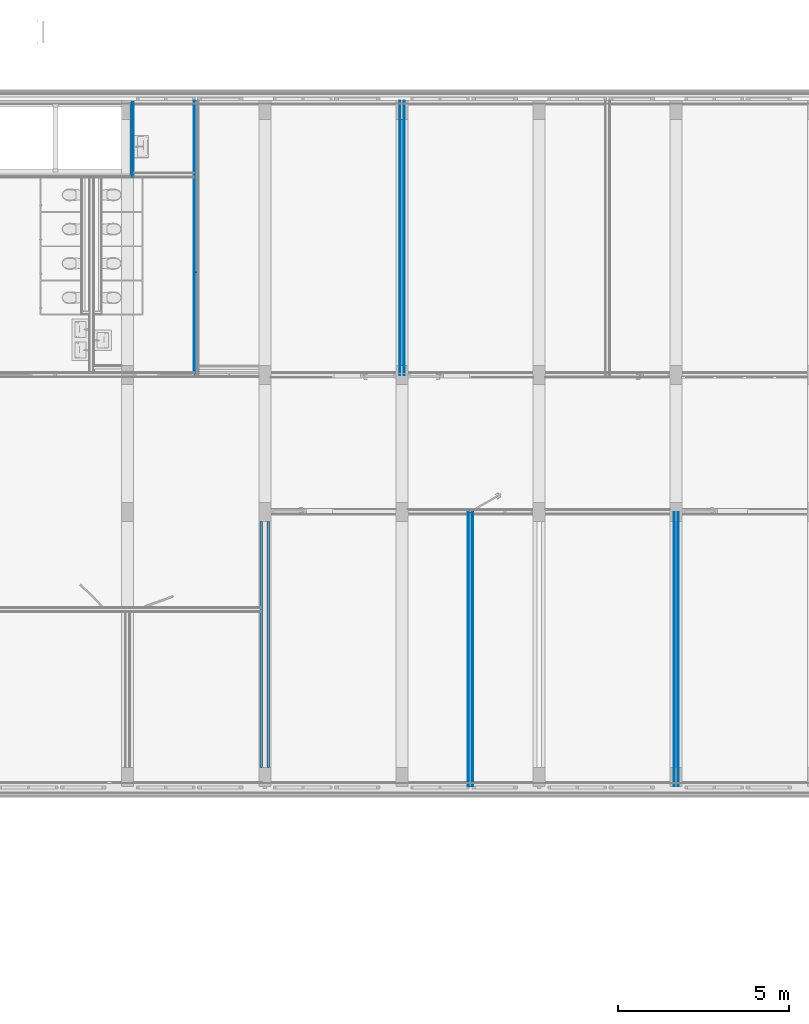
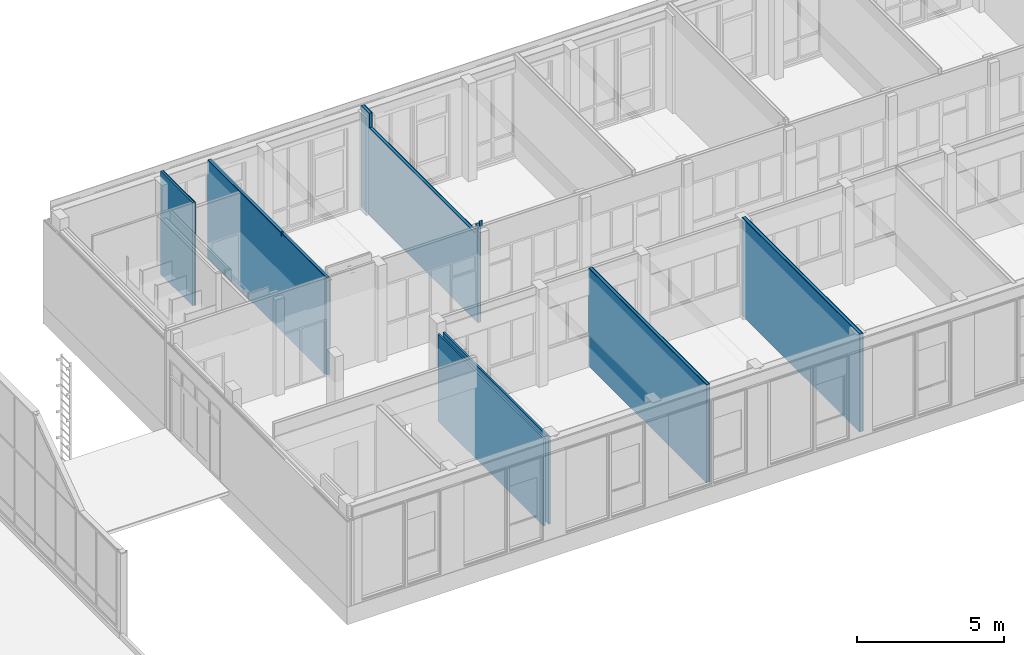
# One storey, part 24 of 54: 23 building element parts, 6 elements without a shape of their own.
"""IFC2X3 building model written with IfcOpenShell, lengths in millimetres."""

import ifcopenshell
import ifcopenshell.guid

model = None  # the IFC model being written
_history = None  # IfcOwnerHistory: only IFC2X3 demands one
_inside = {}  # id of a spatial element -> (the spatial element, [elements in it])
_under = {}  # id of a project, library or spatial element -> (it, [spatial elements below it])
_declared = {}  # id of a project -> (the project, [libraries it declares])
_typed = {}  # id of a type object -> (the type object, [elements of that type])
_made_of = {}  # id of a material, layer set ... -> (it, [elements and type objects made of it])


def new_model(schema):
    """Start an empty IFC model of exactly this schema.

    Asked for "IFC4X3", IfcOpenShell would pick the latest addendum, in which some entities
    have other attributes; the version numbers below select the first issue.
    IFC2X3 requires an IfcOwnerHistory on every rooted entity: one is made here for all.
    """
    global model, _history
    if schema == "IFC4X3":
        model = ifcopenshell.file(schema_version=(4, 3, 0, 0))
    else:
        model = ifcopenshell.file(schema=schema)
    _inside.clear()
    _under.clear()
    _declared.clear()
    _typed.clear()
    _made_of.clear()
    _history = None
    if model.schema == "IFC2X3":
        org = make("IfcOrganization", Name="unknown")
        user = make(
            "IfcPersonAndOrganization",
            ThePerson=make("IfcPerson", FamilyName="unknown"),
            TheOrganization=org,
        )
        app = make(
            "IfcApplication",
            ApplicationDeveloper=org,
            Version="unknown",
            ApplicationFullName="unknown",
            ApplicationIdentifier="unknown",
        )
        _history = make(
            "IfcOwnerHistory",
            OwningUser=user,
            OwningApplication=app,
            ChangeAction="ADDED",
            CreationDate=0,
        )
    return model


def make(cls, **values):
    """One entity of the class cls with the attributes given. An attribute that is None is left unset."""
    return model.create_entity(
        cls, **{name: value for name, value in values.items() if value is not None}
    )


def entity(cls, *values):
    """Any entity or typed value of the class cls, its attributes in the order of the schema. None: left unset."""
    e = model.create_entity(cls)
    for i, value in enumerate(values):
        if value is not None:
            e[i] = value
    return e


def rooted(cls, **values):
    """An entity with a GlobalId (a new one), such as an element, a storey or a relation."""
    return make(cls, GlobalId=ifcopenshell.guid.new(), OwnerHistory=_history, **values)


def si_unit(unit_type, name, prefix=None):
    """IfcSIUnit, for example si_unit("LENGTHUNIT", "METRE", prefix="MILLI")."""
    return make("IfcSIUnit", UnitType=unit_type, Prefix=prefix, Name=name)


def converted_unit(unit_type, name, factor, base, dimensions=None, offset=None):
    """IfcConversionBasedUnit, such as the inch: factor (a typed value) times the base unit."""
    return make(
        "IfcConversionBasedUnit"
        if offset is None
        else "IfcConversionBasedUnitWithOffset",
        ConversionOffset=offset,
        Dimensions=None
        if dimensions is None
        else entity("IfcDimensionalExponents", *dimensions),
        UnitType=unit_type,
        Name=name,
        ConversionFactor=make(
            "IfcMeasureWithUnit", ValueComponent=factor, UnitComponent=base
        ),
    )


def derived_unit(unit_type, elements):
    """IfcDerivedUnit: a product of units, each with its exponent."""
    return make(
        "IfcDerivedUnit",
        Elements=[
            make("IfcDerivedUnitElement", Unit=unit, Exponent=power)
            for unit, power in elements
        ],
        UnitType=unit_type,
    )


def money_unit(currency):
    """IfcMonetaryUnit."""
    return make("IfcMonetaryUnit", Currency=currency)


def assignment(units):
    """IfcUnitAssignment: the units of a project."""
    return None if units is None else make("IfcUnitAssignment", Units=units)


def point(xyz):
    """IfcCartesianPoint."""
    return None if xyz is None else make("IfcCartesianPoint", Coordinates=xyz)


def direction(xyz):
    """IfcDirection."""
    return None if xyz is None else make("IfcDirection", DirectionRatios=xyz)


def frame(location, z_axis=None, x_axis=None):
    """IfcAxis2Placement3D, a coordinate frame: its origin and axes. An axis left out is left unset."""
    return make(
        "IfcAxis2Placement3D",
        Location=point(location),
        Axis=direction(z_axis),
        RefDirection=direction(x_axis),
    )


def origin_with_axes():
    """The frame at (0, 0, 0) with the z axis (0, 0, 1) and the x axis (1, 0, 0) written out."""
    return frame((0.0, 0.0, 0.0), z_axis=(0.0, 0.0, 1.0), x_axis=(1.0, 0.0, 0.0))


def place(relative_to, where):
    """IfcLocalPlacement: puts the frame where relative to a parent placement (None: the world)."""
    return make(
        "IfcLocalPlacement", PlacementRelTo=relative_to, RelativePlacement=where
    )


def context(
    kind, dimensions, precision=None, world=None, true_north=None, identifier=None
):
    """IfcGeometricRepresentationContext, for example the 3D "Model" context."""
    return make(
        "IfcGeometricRepresentationContext",
        ContextIdentifier=identifier,
        ContextType=kind,
        CoordinateSpaceDimension=dimensions,
        Precision=precision,
        WorldCoordinateSystem=world,
        TrueNorth=true_north,
    )


def subcontext(parent, identifier, kind, view, scale=None):
    """IfcGeometricRepresentationSubContext, for example "Body" below "Model"."""
    return make(
        "IfcGeometricRepresentationSubContext",
        ContextIdentifier=identifier,
        ContextType=kind,
        ParentContext=parent,
        TargetScale=scale,
        TargetView=view,
    )


def project(units=None, contexts=None):
    """IfcProject with its units and contexts."""
    return rooted(
        "IfcProject",
        Name="project",
        RepresentationContexts=contexts,
        UnitsInContext=assignment(units),
    )


def spatial(cls, under=None, at=None, **own):
    """A site, building, storey or space (cls), placed at a placement, below another one or the project."""
    s = rooted(cls, ObjectPlacement=at, **own)
    if under is not None:
        _under.setdefault(under.id(), (under, []))[1].append(s)
    return s


def faces_of(points, faces, orient=None, outer=None):
    """IfcFace entities. A face is a list of loops; a loop is a list of indices into points, from 0.

    orient and outer hold one flag for each loop. By default every Orientation is true, the
    first loop of a face is its IfcFaceOuterBound and the others are IfcFaceBound.
    """
    made = []
    for i, loops in enumerate(faces):
        bounds = []
        for j, loop in enumerate(loops):
            is_outer = j == 0 if outer is None else outer[i][j]
            bounds.append(
                make(
                    "IfcFaceOuterBound" if is_outer else "IfcFaceBound",
                    Bound=make("IfcPolyLoop", Polygon=[points[k] for k in loop]),
                    Orientation=True if orient is None else orient[i][j],
                )
            )
        made.append(make("IfcFace", Bounds=bounds))
    return made


def faceted_brep(points, faces, orient=None, outer=None, voids=None):
    """IfcFacetedBrep: a solid bounded by flat faces; with voids (closed shells), ...WithVoids."""
    shared = [point(p) for p in points]
    hull = make("IfcClosedShell", CfsFaces=faces_of(shared, faces, orient, outer))
    if voids is None:
        return make("IfcFacetedBrep", Outer=hull)
    return make(
        "IfcFacetedBrepWithVoids",
        Outer=hull,
        Voids=[
            make(cls, CfsFaces=faces_of(shared, fs, o, b)) for cls, fs, o, b in voids
        ],
    )


def shape(context_of_items, identifier, shape_type, items):
    """IfcShapeRepresentation: the items that make up one representation, for example the "Body"."""
    return make(
        "IfcShapeRepresentation",
        ContextOfItems=context_of_items,
        RepresentationIdentifier=identifier,
        RepresentationType=shape_type,
        Items=items,
    )


def material(Name=None, Category=None):
    """IfcMaterial."""
    return make("IfcMaterial", Name=Name, Category=Category)


def made_of(thing, what):
    """Note that an element or type object is made of a material, layer set ...; save() writes the relation."""
    if what is not None:
        _made_of.setdefault(what.id(), (what, []))[1].append(thing)
    return thing


def type_object(cls, material=None, **own):
    """A type object (cls), such as IfcWallType, which elements share."""
    return made_of(rooted(cls, **own), material)


def element(
    cls,
    number,
    at=None,
    inside=None,
    cuts=None,
    type_object=None,
    material=None,
    context=None,
    identifier="Body",
    shape_type=None,
    held_by="IfcProductDefinitionShape",
    body=None,
    shapes=None,
    **own,
):
    """One element of the class cls, such as IfcWall. Its Tag is "e" and its number.

    at: its placement. inside: the storey or other place that contains it. cuts: it is an
    opening in that element (IfcRelVoidsElement). A single representation is given by context,
    identifier, shape_type and body (its items); several are given by shapes. held_by: the class
    of the entity that holds the representations. save() writes the other relations.
    """
    e = rooted(cls, Tag="e%d" % number, ObjectPlacement=at, **own)
    if body is not None:
        shapes = [shape(context, identifier, shape_type, body)]
    if shapes is not None:
        e.Representation = make(held_by, Representations=shapes)
    if inside is not None:
        _inside.setdefault(inside.id(), (inside, []))[1].append(e)
    if cuts is not None:
        rooted(
            "IfcRelVoidsElement", RelatingBuildingElement=cuts, RelatedOpeningElement=e
        )
    if type_object is not None:
        _typed.setdefault(type_object.id(), (type_object, []))[1].append(e)
    return made_of(e, material)


def aggregate(whole, parts):
    """IfcRelAggregates: a whole, such as a stair, and the parts it consists of."""
    return rooted("IfcRelAggregates", RelatingObject=whole, RelatedObjects=parts)


def save(model, path):
    """Write the relations noted so far, then the file.

    IfcRelAggregates (storeys below a building ...), IfcRelContainedInSpatialStructure (elements
    in a storey), IfcRelDefinesByType, IfcRelAssociatesMaterial and IfcRelDeclares: one each for
    every whole, place, type object, material and project.
    """
    for whole, parts in _under.values():
        aggregate(whole, parts)
    for where, things in _inside.values():
        rooted(
            "IfcRelContainedInSpatialStructure",
            RelatedElements=things,
            RelatingStructure=where,
        )
    for kind, things in _typed.values():
        rooted("IfcRelDefinesByType", RelatedObjects=things, RelatingType=kind)
    for what, things in _made_of.values():
        rooted("IfcRelAssociatesMaterial", RelatedObjects=things, RelatingMaterial=what)
    for by, libraries in _declared.values():
        rooted("IfcRelDeclares", RelatingContext=by, RelatedDefinitions=libraries)
    model.write(path)


model = new_model("IFC2X3")

# Units and contexts
model_context = context("Model", 3, precision=0.01, world=origin_with_axes(), true_north=direction((0.0, 1.0)))
body_context = subcontext(model_context, "Body", "Model", "MODEL_VIEW")
ifc_project = project(units=[si_unit("LENGTHUNIT", "METRE", prefix="MILLI"), si_unit("AREAUNIT", "SQUARE_METRE"), si_unit("VOLUMEUNIT", "CUBIC_METRE"), converted_unit("PLANEANGLEUNIT", "DEGREE", entity("IfcPlaneAngleMeasure", 0.0174532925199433), si_unit("PLANEANGLEUNIT", "RADIAN"), dimensions=[0, 0, 0, 0, 0, 0, 0]), money_unit("EUR"), converted_unit("TIMEUNIT", "Year", entity("IfcTimeMeasure", 31557600.0), si_unit("TIMEUNIT", "SECOND"), dimensions=[0, 0, 1, 0, 0, 0, 0]), si_unit("MASSUNIT", "GRAM", prefix="KILO"), si_unit("THERMODYNAMICTEMPERATUREUNIT", "DEGREE_CELSIUS"), si_unit("LUMINOUSINTENSITYUNIT", "LUMEN"), si_unit("ENERGYUNIT", "JOULE", prefix="MEGA"), derived_unit("THERMALCONDUCTANCEUNIT", [(si_unit("POWERUNIT", "WATT"), 1), (si_unit("LENGTHUNIT", "METRE"), -1), (si_unit("THERMODYNAMICTEMPERATUREUNIT", "KELVIN"), -1)]), derived_unit("SPECIFICHEATCAPACITYUNIT", [(si_unit("ENERGYUNIT", "JOULE"), 1), (si_unit("MASSUNIT", "GRAM", prefix="KILO"), -1), (si_unit("THERMODYNAMICTEMPERATUREUNIT", "KELVIN"), -1)]), derived_unit("MASSDENSITYUNIT", [(si_unit("MASSUNIT", "GRAM", prefix="KILO"), 1), (si_unit("VOLUMEUNIT", "CUBIC_METRE"), -1)])], contexts=[model_context])

# Site, building, storey
site_placement = place(None, origin_with_axes())
site = spatial("IfcSite", under=ifc_project, at=site_placement, Name="<site naam>", CompositionType="ELEMENT")
building_placement = place(site_placement, origin_with_axes())
building = spatial("IfcBuilding", under=site, at=building_placement, Name="<Naam gebouw>", CompositionType="ELEMENT")
storey_placement = place(building_placement, frame((0.0, 0.0, 8500.0), z_axis=(0.0, 0.0, 1.0), x_axis=(1.0, 0.0, 0.0)))
storey = spatial("IfcBuildingStorey", under=building, at=storey_placement, Name="02 2e verdieping", CompositionType="ELEMENT", Elevation=8500.0)

# Wall, building element parts
wall_type_1 = type_object("IfcWallType", Name="MS-01 GF 150 ECO DGS/2.100.2.A 150", PredefinedType="NOTDEFINED")
wall_1_placement = place(storey_placement, frame((31999.99928888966, 7997.554532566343, 0.0), z_axis=(0.0, 0.0, 1.0), x_axis=(2.609057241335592e-06, -0.9999999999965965, 0.0)))
wall_1 = element("IfcWall", 1, at=wall_1_placement, inside=storey, type_object=wall_type_1, Name="22_Binnenwand_MS-01")
ifc_material_1 = material(Name="gipsplaat")
building_element_part_1_placement = place(wall_1_placement, origin_with_axes())
building_element_part_1 = element("IfcBuildingElementPart", 2, at=building_element_part_1_placement, material=ifc_material_1, Name="gipsplaat", context=body_context, shape_type="Brep", body=[
    faceted_brep([(0.0, 62.5, 4050.000014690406), (7997.554532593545, 62.5, 4050.000014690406), (7997.554532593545, 62.5, 0.0), (0.0, 62.5, 0.0), (7997.554532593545, 49.99999999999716, 4050.000014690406), (0.0, 49.99999999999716, 4050.000014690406), (7997.554532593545, 49.99999999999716, 0.0), (0.0, 49.99999999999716, 0.0)], [[[0, 1, 2, 3]], [[4, 1, 0, 5]], [[1, 4, 6, 2]], [[7, 3, 2, 6]], [[5, 0, 3, 7]], [[4, 5, 7, 6]]]),
])
building_element_part_2_placement = place(wall_1_placement, origin_with_axes())
building_element_part_2 = element("IfcBuildingElementPart", 3, at=building_element_part_2_placement, material=ifc_material_1, Name="gipsplaat", context=body_context, shape_type="Brep", body=[
    faceted_brep([(0.0, -62.5, 4050.000014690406), (7997.554532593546, -62.5, 4050.000014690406), (7997.554532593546, -62.5, 0.0), (0.0, -62.5, 0.0), (7997.554532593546, -74.99999999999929, 4050.000014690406), (0.0, -74.99999999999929, 4050.000014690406), (7997.554532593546, -75.00000000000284, 0.0), (0.0, -74.99999999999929, 0.0)], [[[0, 1, 2, 3]], [[4, 1, 0, 5]], [[1, 4, 6, 2]], [[7, 3, 2, 6]], [[5, 0, 3, 7]], [[4, 5, 7, 6]]]),
])
building_element_part_3_placement = place(wall_1_placement, origin_with_axes())
building_element_part_3 = element("IfcBuildingElementPart", 4, at=building_element_part_3_placement, material=ifc_material_1, Name="gipsplaat", context=body_context, shape_type="Brep", body=[
    faceted_brep([(0.0, 74.99999999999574, 4050.000014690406), (7997.554532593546, 75.00000000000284, 4050.000014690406), (7997.554532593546, 75.00000000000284, 0.0), (0.0, 74.99999999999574, 0.0), (7997.554532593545, 62.5, 4050.000014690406), (0.0, 62.5, 4050.000014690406), (7997.554532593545, 62.5, 0.0), (0.0, 62.5, 0.0)], [[[0, 1, 2, 3]], [[4, 1, 0, 5]], [[1, 4, 6, 2]], [[7, 3, 2, 6]], [[5, 0, 3, 7]], [[4, 5, 7, 6]]]),
])
building_element_part_4_placement = place(wall_1_placement, origin_with_axes())
building_element_part_4 = element("IfcBuildingElementPart", 5, at=building_element_part_4_placement, material=ifc_material_1, Name="gipsplaat", context=body_context, shape_type="Brep", body=[
    faceted_brep([(0.0, -50.00000000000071, 4050.000014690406), (7997.554532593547, -50.00000000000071, 4050.000014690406), (7997.554532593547, -50.00000000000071, 0.0), (0.0, -50.00000000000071, 0.0), (7997.554532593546, -62.5, 4050.000014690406), (0.0, -62.5, 4050.000014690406), (7997.554532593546, -62.5, 0.0), (0.0, -62.5, 0.0)], [[[0, 1, 2, 3]], [[4, 1, 0, 5]], [[1, 4, 6, 2]], [[7, 3, 2, 6]], [[5, 0, 3, 7]], [[4, 5, 7, 6]]]),
])
ifc_material_2 = material(Name="isolatie_steenwol LSW")
building_element_part_5_placement = place(wall_1_placement, origin_with_axes())
building_element_part_5 = element("IfcBuildingElementPart", 6, at=building_element_part_5_placement, material=ifc_material_2, Name="isolatie_steenwol LSW", context=body_context, shape_type="Brep", body=[
    faceted_brep([(0.0, 49.99999999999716, 4050.000014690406), (7997.554532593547, 49.99999999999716, 4050.000014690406), (7997.554532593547, 49.99999999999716, 0.0), (0.0, 49.99999999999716, 0.0), (7997.554532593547, -50.00000000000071, 4050.000014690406), (0.0, -50.00000000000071, 4050.000014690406), (7997.554532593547, -50.00000000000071, 0.0), (0.0, -50.00000000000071, 0.0)], [[[0, 1, 2, 3]], [[4, 1, 0, 5]], [[1, 4, 6, 2]], [[7, 3, 2, 6]], [[5, 0, 3, 7]], [[4, 5, 7, 6]]]),
])
aggregate(wall_1, [building_element_part_1, building_element_part_2, building_element_part_3, building_element_part_4, building_element_part_5])

wall_type_2 = type_object("IfcWallType", Name="metalstud-lucht-metalstud 270 270", PredefinedType="NOTDEFINED")
wall_2_placement = place(storey_placement, frame((20000.00000000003, 550.000000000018, 0.0), z_axis=(0.0, 0.0, 1.0), x_axis=(0.0, 1.0, 0.0)))
wall_2 = element("IfcWall", 7, at=wall_2_placement, inside=storey, type_object=wall_type_2, Name="22_Binnenwand_metalstud-lucht-metalstud")
ifc_material_3 = material(Name="metal_stud")
building_element_part_6_placement = place(wall_2_placement, origin_with_axes())
building_element_part_6 = element("IfcBuildingElementPart", 8, at=building_element_part_6_placement, material=ifc_material_3, Name="metal_stud", context=body_context, shape_type="Brep", body=[
    faceted_brep([(7175.000000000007, -65.00000000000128, 0.0), (7175.000000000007, -65.00000000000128, 3610.000000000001), (7175.000000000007, -134.999999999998, 3610.000000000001), (7175.000000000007, -135.0000000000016, 0.0), (0.0, -65.00000000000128, 0.0), (0.0, -65.00000000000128, 3610.000000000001), (0.0, -134.999999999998, 3610.000000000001), (0.0, -135.0000000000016, 0.0)], [[[0, 1, 2, 3]], [[4, 5, 1, 0]], [[5, 6, 2, 1]], [[3, 2, 6, 7]], [[3, 7, 4, 0]], [[7, 6, 5, 4]]]),
])
building_element_part_7_placement = place(wall_2_placement, origin_with_axes())
building_element_part_7 = element("IfcBuildingElementPart", 9, at=building_element_part_7_placement, material=ifc_material_3, Name="metal_stud", context=body_context, shape_type="Brep", body=[
    faceted_brep([(7175.000000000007, 135.0000000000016, 0.0), (7175.000000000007, 135.0000000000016, 3610.000000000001), (7175.000000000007, 65.00000000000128, 3610.000000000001), (7175.000000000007, 65.00000000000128, 0.0), (0.0, 135.0000000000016, 0.0), (0.0, 135.0000000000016, 3610.000000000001), (0.0, 65.00000000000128, 3610.000000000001), (0.0, 65.00000000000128, 0.0)], [[[0, 1, 2, 3]], [[4, 5, 1, 0]], [[5, 6, 2, 1]], [[3, 2, 6, 7]], [[3, 7, 4, 0]], [[7, 6, 5, 4]]]),
])
aggregate(wall_2, [building_element_part_6, building_element_part_7])

wall_3_placement = place(storey_placement, frame((23999.98447987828, 20000.00000000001, 0.0), z_axis=(0.0, 0.0, 1.0), x_axis=(5.218114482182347e-06, -0.9999999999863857, 0.0)))
wall_3 = element("IfcWall", 10, at=wall_3_placement, inside=storey, type_object=wall_type_1, Name="22_Binnenwand_MS-01")
building_element_part_8_placement = place(wall_3_placement, origin_with_axes())
building_element_part_8 = element("IfcBuildingElementPart", 11, at=building_element_part_8_placement, material=ifc_material_1, Name="gipsplaat", context=body_context, shape_type="Brep", body=[
    faceted_brep([(8000.00039146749, 74.99999999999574, 4049.999999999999), (8000.00039146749, 74.99999999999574, 4270.0), (8009.999969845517, 74.99999999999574, 4270.0), (8009.999969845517, 74.99999999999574, 4049.999999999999), (8000.000326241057, 62.49999999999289, 4270.0), (8000.000326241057, 62.49999999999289, 4049.999999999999), (8009.999969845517, 62.49999999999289, 4270.0), (8009.999969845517, 62.49999999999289, 4049.999999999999)], [[[0, 1, 2, 3]], [[4, 1, 0, 5]], [[1, 4, 6, 2]], [[2, 6, 7, 3]], [[5, 0, 3, 7]], [[4, 5, 7, 6]]]),
    faceted_brep([(550.0003913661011, 74.99999999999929, 3610.000000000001), (7725.000391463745, 74.99999999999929, 3610.000000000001), (7725.000391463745, 74.99999999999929, 3990.0), (7925.000391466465, 74.99999999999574, 3990.0), (7925.000391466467, 74.99999999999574, 0.0), (0.0, 74.99999999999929, 0.0), (0.0003913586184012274, 74.99999999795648, 4200.000014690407), (550.0003913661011, 74.99999999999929, 4200.000014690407), (550.0003261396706, 62.49999999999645, 3610.000000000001), (7725.000326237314, 62.49999999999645, 3610.000000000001), (7725.000326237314, 62.49999999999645, 3990.0), (7925.000326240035, 62.5, 3990.0), (7925.000326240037, 62.49999999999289, 0.0), (0.0, 62.49999999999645, 0.0), (0.0003261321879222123, 62.49999999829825, 4200.000014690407), (550.0003261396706, 62.49999999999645, 4200.000014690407)], [[[0, 1, 2, 3, 4, 5, 6, 7]], [[1, 0, 8, 9]], [[2, 1, 9, 10]], [[3, 2, 10, 11]], [[3, 11, 12, 4]], [[13, 5, 4, 12]], [[14, 6, 5, 13]], [[7, 6, 14, 15]], [[0, 7, 15, 8]], [[15, 14, 13, 12, 11, 10, 9, 8]]]),
])
building_element_part_9_placement = place(wall_3_placement, origin_with_axes())
building_element_part_9 = element("IfcBuildingElementPart", 12, at=building_element_part_9_placement, material=ifc_material_1, Name="gipsplaat", context=body_context, shape_type="Brep", body=[
    faceted_brep([(8000.000326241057, 62.49999999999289, 4049.999999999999), (8000.000326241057, 62.49999999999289, 4270.0), (8009.999969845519, 62.49999999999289, 4270.0), (8009.999969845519, 62.49999999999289, 4049.999999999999), (8000.000261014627, 49.99999999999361, 4270.0), (8000.000261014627, 49.99999999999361, 4049.999999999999), (8009.999969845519, 49.99999999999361, 4270.0), (8009.999969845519, 49.99999999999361, 4049.999999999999)], [[[0, 1, 2, 3]], [[4, 1, 0, 5]], [[1, 4, 6, 2]], [[2, 6, 7, 3]], [[5, 0, 3, 7]], [[4, 5, 7, 6]]]),
    faceted_brep([(550.0003261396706, 62.49999999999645, 3610.000000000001), (7725.000326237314, 62.49999999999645, 3610.000000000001), (7725.000326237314, 62.49999999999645, 3990.0), (7925.000326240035, 62.5, 3990.0), (7925.000326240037, 62.49999999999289, 0.0), (0.0, 62.49999999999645, 0.0), (0.0003261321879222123, 62.49999999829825, 4200.000014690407), (550.0003261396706, 62.49999999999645, 4200.000014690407), (550.0002609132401, 49.99999999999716, 3610.000000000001), (7725.000261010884, 49.99999999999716, 3610.000000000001), (7725.000261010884, 49.99999999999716, 3990.0), (7925.000261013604, 49.99999999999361, 3990.0), (7925.000261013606, 49.99999999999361, 0.0), (0.0, 49.99999999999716, 0.0), (0.0002609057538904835, 49.99999999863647, 4200.000014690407), (550.0002609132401, 49.99999999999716, 4200.000014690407)], [[[0, 1, 2, 3, 4, 5, 6, 7]], [[1, 0, 8, 9]], [[2, 1, 9, 10]], [[3, 2, 10, 11]], [[3, 11, 12, 4]], [[13, 5, 4, 12]], [[14, 6, 5, 13]], [[7, 6, 14, 15]], [[0, 7, 15, 8]], [[15, 14, 13, 12, 11, 10, 9, 8]]]),
])
building_element_part_10_placement = place(wall_3_placement, origin_with_axes())
building_element_part_10 = element("IfcBuildingElementPart", 13, at=building_element_part_10_placement, material=ifc_material_2, Name="isolatie_steenwol LSW", context=body_context, shape_type="Brep", body=[
    faceted_brep([(8000.000261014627, 49.99999999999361, 4049.999999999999), (8000.000261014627, 49.99999999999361, 4270.0), (8009.999969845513, 49.99999999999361, 4270.0), (8009.999969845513, 49.99999999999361, 4049.999999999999), (8000.000024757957, 4.72374739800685, 4270.0), (7999.999739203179, -50.00000000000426, 4049.999999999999), (7999.999739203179, -50.00000000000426, 4270.0), (7999.99997518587, -4.776252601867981, 4270.0), (7999.99997518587, -4.776252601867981, 4135.38538922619), (8000.000024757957, 4.72374739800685, 4135.38538922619), (8009.999969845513, 4.723695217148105, 4270.0), (8009.999969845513, 4.723695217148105, 4135.38538922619), (8009.999969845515, -4.776304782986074, 4135.38538922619), (8009.999969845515, -4.776304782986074, 4270.0), (8009.999969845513, -50.00000000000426, 4270.0), (8009.999969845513, -50.00000000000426, 4049.999999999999)], [[[0, 1, 2, 3]], [[4, 1, 0, 5, 6, 7, 8, 9]], [[1, 4, 10, 2]], [[11, 12, 13, 14, 15, 3, 2, 10]], [[5, 0, 3, 15]], [[6, 5, 15, 14]], [[7, 6, 14, 13]], [[8, 7, 13, 12]], [[9, 8, 12, 11]], [[4, 9, 11, 10]]]),
    faceted_brep([(550.0002609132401, 49.99999999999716, 3610.000000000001), (7725.000261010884, 49.99999999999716, 3610.000000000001), (7725.000261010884, 49.99999999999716, 3990.0), (7925.000261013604, 49.99999999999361, 3990.0), (7925.000261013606, 49.99999999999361, 0.0), (0.0, 49.99999999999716, 0.0), (0.0002609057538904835, 49.99999999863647, 4200.000014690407), (550.0002609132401, 49.99999999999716, 4200.000014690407), (549.9997391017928, -50.00000000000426, 3610.000000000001), (7724.999739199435, -50.00000000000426, 3610.000000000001), (7724.999739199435, -50.00000000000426, 3990.0), (7924.999739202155, -50.00000000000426, 3990.0), (7924.999739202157, -50.00000000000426, 0.0), (0.0, -50.00000000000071, 0.0), (-0.000260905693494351, -49.99999999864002, 4200.000014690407), (549.9997391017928, -50.00000000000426, 4200.000014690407)], [[[0, 1, 2, 3, 4, 5, 6, 7]], [[1, 0, 8, 9]], [[2, 1, 9, 10]], [[3, 2, 10, 11]], [[3, 11, 12, 4]], [[13, 5, 4, 12]], [[14, 6, 5, 13]], [[7, 6, 14, 15]], [[0, 7, 15, 8]], [[15, 14, 13, 12, 11, 10, 9, 8]]]),
])
building_element_part_11_placement = place(wall_3_placement, origin_with_axes())
building_element_part_11 = element("IfcBuildingElementPart", 14, at=building_element_part_11_placement, material=ifc_material_1, Name="gipsplaat", context=body_context, shape_type="Brep", body=[
    faceted_brep([(7999.999739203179, -50.00000000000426, 4049.999999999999), (7999.999739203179, -50.00000000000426, 4270.0), (8009.999969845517, -50.00000000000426, 4270.0), (8009.999969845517, -50.00000000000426, 4049.999999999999), (7999.999673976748, -62.50000000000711, 4270.0), (7999.999673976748, -62.50000000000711, 4049.999999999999), (8009.999969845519, -62.50000000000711, 4270.0), (8009.999969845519, -62.50000000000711, 4049.999999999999)], [[[0, 1, 2, 3]], [[4, 1, 0, 5]], [[1, 4, 6, 2]], [[2, 6, 7, 3]], [[5, 0, 3, 7]], [[4, 5, 7, 6]]]),
    faceted_brep([(549.9997391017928, -50.00000000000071, 3610.000000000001), (7724.999739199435, -50.00000000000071, 3610.000000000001), (7724.999739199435, -50.00000000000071, 3990.0), (7924.999739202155, -50.00000000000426, 3990.0), (7924.999739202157, -50.00000000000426, 0.0), (0.0, -50.00000000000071, 0.0), (-0.000260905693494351, -49.99999999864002, 4200.000014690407), (549.9997391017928, -50.00000000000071, 4200.000014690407), (549.9996738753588, -62.50000000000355, 3610.000000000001), (7724.999673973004, -62.50000000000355, 3610.000000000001), (7724.999673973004, -62.50000000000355, 3990.0), (7924.999673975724, -62.50000000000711, 3990.0), (7924.999673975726, -62.50000000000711, 0.0), (0.0, -62.5, 0.0), (-0.0003261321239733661, -62.49999999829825, 4200.000014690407), (549.9996738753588, -62.50000000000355, 4200.000014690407)], [[[0, 1, 2, 3, 4, 5, 6, 7]], [[1, 0, 8, 9]], [[2, 1, 9, 10]], [[3, 2, 10, 11]], [[3, 11, 12, 4]], [[13, 5, 4, 12]], [[14, 6, 5, 13]], [[7, 6, 14, 15]], [[0, 7, 15, 8]], [[15, 14, 13, 12, 11, 10, 9, 8]]]),
])
aggregate(wall_3, [building_element_part_8, building_element_part_9, building_element_part_10, building_element_part_11])

wall_4_placement = place(storey_placement, frame((18000.10069231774, 20000.00000000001, 0.0), z_axis=(0.0, 0.0, 1.0), x_axis=(0.0, -1.0, 0.0)))
wall_4 = element("IfcWall", 15, at=wall_4_placement, inside=storey, type_object=wall_type_1, Name="22_Binnenwand_MS-01")
building_element_part_12_placement = place(wall_4_placement, origin_with_axes())
building_element_part_12 = element("IfcBuildingElementPart", 16, at=building_element_part_12_placement, material=ifc_material_2, Name="isolatie_steenwol LSW", context=body_context, shape_type="Brep", body=[
    faceted_brep([(5008.499999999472, 50.00000000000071, 4037.999999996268), (8050.000000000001, 50.00000000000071, 4037.999999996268), (8050.000000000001, 50.00000000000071, 3922.000000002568), (5008.499999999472, 50.00000000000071, 3922.000000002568), (5075.000000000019, -50.00000000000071, 4037.999999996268), (5075.000000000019, 14.89930769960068, 4037.999999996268), (8050.000000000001, 14.89930769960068, 4037.999999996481), (5008.499999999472, -50.00000000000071, 4037.999999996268), (8050.000000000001, 14.8993076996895, 4050.000000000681), (8050.000000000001, -50.00000000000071, 4050.000000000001), (8050.000000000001, -50.00000000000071, 0.0), (8050.000000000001, 50.00000000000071, 0.0), (8050.000000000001, 50.00000000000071, 3909.999999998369), (8050.000000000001, 14.8993076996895, 3909.999999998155), (8050.000000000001, 14.89930769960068, 3922.000000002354), (5008.499999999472, -50.00000000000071, 3922.000000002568), (5075.000000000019, 14.89930769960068, 3922.000000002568), (5075.000000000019, -50.00000000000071, 3922.000000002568), (5074.999999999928, -50.00000000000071, 4050.000000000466), (5074.999999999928, 14.8993076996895, 4050.000000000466), (5001.499999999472, -50.00000000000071, 4037.999999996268), (4934.999999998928, -50.00000000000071, 4037.999999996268), (4934.999999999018, -50.00000000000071, 4050.000000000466), (0.0, -50.00000000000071, 4050.000000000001), (0.0, -50.00000000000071, 0.0), (5074.999999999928, -50.00000000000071, 3909.999999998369), (4934.999999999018, -50.00000000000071, 3909.999999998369), (4934.999999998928, -50.00000000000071, 3922.000000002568), (5001.499999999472, -50.00000000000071, 3922.000000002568), (0.0, 50.00000000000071, 0.0), (4934.999999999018, 50.00000000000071, 3909.999999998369), (0.0, 50.00000000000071, 4050.000000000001), (4934.999999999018, 50.00000000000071, 4050.000000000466), (4934.999999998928, 50.00000000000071, 4037.999999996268), (5001.499999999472, 50.00000000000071, 4037.999999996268), (5001.499999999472, 50.00000000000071, 3922.000000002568), (4934.999999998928, 50.00000000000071, 3922.000000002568), (5074.999999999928, 14.8993076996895, 3909.999999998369)], [[[0, 1, 2, 3]], [[4, 5, 6, 1, 0, 7]], [[1, 6, 8, 9, 10, 11, 12, 13, 14, 2]], [[15, 3, 2, 14, 16, 17]], [[7, 0, 3, 15]], [[18, 19, 5, 4]], [[6, 5, 19, 8]], [[20, 21, 22, 23, 24, 10, 9, 18, 4, 7, 15, 17, 25, 26, 27, 28]], [[9, 8, 19, 18]], [[29, 11, 10, 24]], [[30, 12, 11, 29, 31, 32, 33, 34, 35, 36]], [[25, 37, 13, 12, 30, 26]], [[13, 37, 16, 14]], [[17, 16, 37, 25]], [[20, 34, 33, 21]], [[21, 33, 32, 22]], [[23, 22, 32, 31]], [[29, 24, 23, 31]], [[26, 30, 36, 27]], [[27, 36, 35, 28]], [[28, 35, 34, 20]]]),
])
building_element_part_13_placement = place(wall_4_placement, origin_with_axes())
building_element_part_13 = element("IfcBuildingElementPart", 17, at=building_element_part_13_placement, material=ifc_material_1, Name="gipsplaat", context=body_context, shape_type="Brep", body=[
    faceted_brep([(0.0, -62.5, 4050.000000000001), (4934.999999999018, -62.5, 4050.000000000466), (4934.999999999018, -50.00000000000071, 4050.000000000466), (0.0, -50.00000000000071, 4050.000000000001), (5001.499999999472, -62.5, 4037.999999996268), (4934.999999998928, -62.5, 4037.999999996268), (0.0, -62.5, 0.0), (7949.999999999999, -62.5, 0.0), (7949.999999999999, -62.5, 4050.000000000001), (5074.999999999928, -62.5, 4050.000000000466), (5075.000000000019, -62.5, 4037.999999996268), (5008.499999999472, -62.5, 4037.999999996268), (5008.499999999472, -62.5, 3922.000000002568), (5075.000000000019, -62.5, 3922.000000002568), (5074.999999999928, -62.5, 3909.999999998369), (4934.999999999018, -62.5, 3909.999999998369), (4934.999999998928, -62.5, 3922.000000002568), (5001.499999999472, -62.5, 3922.000000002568), (4934.999999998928, -50.00000000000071, 4037.999999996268), (5008.499999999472, -50.00000000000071, 4037.999999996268), (5075.000000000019, -50.00000000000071, 4037.999999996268), (5074.999999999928, -50.00000000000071, 4050.000000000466), (7949.999999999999, -50.00000000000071, 4050.000000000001), (7949.999999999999, -50.00000000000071, 0.0), (0.0, -50.00000000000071, 0.0), (5001.499999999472, -50.00000000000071, 4037.999999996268), (5001.499999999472, -50.00000000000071, 3922.000000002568), (4934.999999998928, -50.00000000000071, 3922.000000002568), (4934.999999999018, -50.00000000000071, 3909.999999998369), (5074.999999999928, -50.00000000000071, 3909.999999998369), (5075.000000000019, -50.00000000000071, 3922.000000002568), (5008.499999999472, -50.00000000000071, 3922.000000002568)], [[[0, 1, 2, 3]], [[4, 5, 1, 0, 6, 7, 8, 9, 10, 11, 12, 13, 14, 15, 16, 17]], [[5, 18, 2, 1]], [[19, 20, 21, 22, 23, 24, 3, 2, 18, 25, 26, 27, 28, 29, 30, 31]], [[24, 6, 0, 3]], [[4, 25, 18, 5]], [[24, 23, 7, 6]], [[23, 22, 8, 7]], [[22, 21, 9, 8]], [[10, 9, 21, 20]], [[10, 20, 19, 11]], [[11, 19, 31, 12]], [[12, 31, 30, 13]], [[13, 30, 29, 14]], [[14, 29, 28, 15]], [[15, 28, 27, 16]], [[16, 27, 26, 17]], [[17, 26, 25, 4]]]),
])
building_element_part_14_placement = place(wall_4_placement, origin_with_axes())
building_element_part_14 = element("IfcBuildingElementPart", 18, at=building_element_part_14_placement, material=ifc_material_1, Name="gipsplaat", context=body_context, shape_type="Brep", body=[
    faceted_brep([(0.0, -74.99999999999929, 4050.000000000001), (4934.999999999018, -74.99999999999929, 4050.000000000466), (4934.999999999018, -62.5, 4050.000000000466), (0.0, -62.5, 4050.000000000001), (5001.499999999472, -74.99999999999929, 4037.999999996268), (4934.999999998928, -74.99999999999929, 4037.999999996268), (0.0, -74.99999999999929, 0.0), (7937.5, -74.99999999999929, 0.0), (7937.5, -74.99999999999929, 4050.000000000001), (5074.999999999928, -74.99999999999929, 4050.000000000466), (5075.000000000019, -74.99999999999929, 4037.999999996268), (5008.499999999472, -74.99999999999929, 4037.999999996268), (5008.499999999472, -74.99999999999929, 3922.000000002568), (5075.000000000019, -74.99999999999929, 3922.000000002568), (5074.999999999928, -74.99999999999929, 3909.999999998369), (4934.999999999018, -74.99999999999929, 3909.999999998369), (4934.999999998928, -74.99999999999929, 3922.000000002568), (5001.499999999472, -74.99999999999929, 3922.000000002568), (4934.999999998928, -62.5, 4037.999999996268), (5008.499999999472, -62.5, 4037.999999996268), (5075.000000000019, -62.5, 4037.999999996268), (5074.999999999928, -62.5, 4050.000000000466), (7937.5, -62.5, 4050.000000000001), (7937.5, -62.5, 0.0), (0.0, -62.5, 0.0), (5001.499999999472, -62.5, 4037.999999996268), (5001.499999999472, -62.5, 3922.000000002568), (4934.999999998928, -62.5, 3922.000000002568), (4934.999999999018, -62.5, 3909.999999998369), (5074.999999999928, -62.5, 3909.999999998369), (5075.000000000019, -62.5, 3922.000000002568), (5008.499999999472, -62.5, 3922.000000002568)], [[[0, 1, 2, 3]], [[4, 5, 1, 0, 6, 7, 8, 9, 10, 11, 12, 13, 14, 15, 16, 17]], [[5, 18, 2, 1]], [[19, 20, 21, 22, 23, 24, 3, 2, 18, 25, 26, 27, 28, 29, 30, 31]], [[24, 6, 0, 3]], [[4, 25, 18, 5]], [[24, 23, 7, 6]], [[23, 22, 8, 7]], [[22, 21, 9, 8]], [[10, 9, 21, 20]], [[10, 20, 19, 11]], [[11, 19, 31, 12]], [[12, 31, 30, 13]], [[13, 30, 29, 14]], [[14, 29, 28, 15]], [[15, 28, 27, 16]], [[16, 27, 26, 17]], [[17, 26, 25, 4]]]),
])
aggregate(wall_4, [building_element_part_12, building_element_part_13, building_element_part_14])

wall_5_placement = place(storey_placement, frame((25998.74895354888, 7996.627147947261, 0.0), z_axis=(0.0, 0.0, 1.0), x_axis=(0.0, -1.0, 0.0)))
wall_5 = element("IfcWall", 19, at=wall_5_placement, inside=storey, type_object=wall_type_1, Name="22_Binnenwand_MS-01")
building_element_part_15_placement = place(wall_5_placement, origin_with_axes())
building_element_part_15 = element("IfcBuildingElementPart", 20, at=building_element_part_15_placement, material=ifc_material_1, Name="gipsplaat", context=body_context, shape_type="Brep", body=[
    faceted_brep([(0.0, 50.00000000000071, 4050.000014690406), (0.0, 62.5, 4050.000014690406), (0.0, 62.5, 0.0), (0.0, 50.00000000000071, 0.0), (7996.627147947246, 62.5, 4050.000014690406), (7996.627147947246, 50.00000000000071, 4050.000014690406), (7996.627147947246, 62.5, 0.0), (73.48162008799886, 62.5, 3700.000000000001), (75.01155015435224, 62.5, 3700.000000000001), (75.01155015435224, 62.5, 3740.0), (73.48162008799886, 62.5, 3740.0), (7996.627147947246, 50.00000000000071, 0.0), (75.01155015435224, 50.00000000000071, 3740.0), (75.01155015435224, 50.00000000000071, 3700.000000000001), (73.48162008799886, 50.00000000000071, 3700.000000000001), (73.48162008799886, 50.00000000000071, 3740.0)], [[[0, 1, 2, 3]], [[4, 1, 0, 5]], [[1, 4, 6, 2], [7, 8, 9, 10]], [[3, 2, 6, 11]], [[5, 0, 3, 11], [12, 13, 14, 15]], [[4, 5, 11, 6]], [[13, 8, 7, 14]], [[12, 9, 8, 13]], [[15, 10, 9, 12]], [[14, 7, 10, 15]]]),
])
building_element_part_16_placement = place(wall_5_placement, origin_with_axes())
building_element_part_16 = element("IfcBuildingElementPart", 21, at=building_element_part_16_placement, material=ifc_material_1, Name="gipsplaat", context=body_context, shape_type="Brep", body=[
    faceted_brep([(0.0, 62.5, 4050.000014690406), (0.0, 74.99999999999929, 4050.000014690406), (0.0, 74.99999999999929, 0.0), (0.0, 62.5, 0.0), (7996.627147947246, 74.99999999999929, 4050.000014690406), (7996.627147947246, 62.5, 4050.000014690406), (7996.627147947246, 74.99999999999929, 0.0), (73.48162008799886, 74.99999999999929, 3700.000000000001), (75.01155015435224, 74.99976937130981, 3700.000000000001), (75.01155015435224, 74.99976937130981, 3740.0), (73.48162008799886, 74.99999999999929, 3740.0), (7996.627147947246, 62.5, 0.0), (75.01155015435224, 62.5, 3740.0), (75.01155015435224, 62.5, 3700.000000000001), (73.48162008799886, 62.5, 3700.000000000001), (73.48162008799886, 62.5, 3740.0)], [[[0, 1, 2, 3]], [[4, 1, 0, 5]], [[1, 4, 6, 2], [7, 8, 9, 10]], [[3, 2, 6, 11]], [[5, 0, 3, 11], [12, 13, 14, 15]], [[4, 5, 11, 6]], [[13, 8, 7, 14]], [[12, 9, 8, 13]], [[15, 10, 9, 12]], [[14, 7, 10, 15]]]),
])
building_element_part_17_placement = place(wall_5_placement, origin_with_axes())
building_element_part_17 = element("IfcBuildingElementPart", 22, at=building_element_part_17_placement, material=ifc_material_1, Name="gipsplaat", context=body_context, shape_type="Brep", body=[
    faceted_brep([(0.0, -62.5, 4050.000014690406), (0.0, -50.00000000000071, 4050.000014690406), (0.0, -50.00000000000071, 0.0), (0.0, -62.5, 0.0), (7996.627147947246, -50.00000000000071, 4050.000014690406), (7996.627147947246, -62.5, 4050.000014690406), (7996.627147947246, -50.00000000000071, 0.0), (73.48162008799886, -50.00000000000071, 3700.000000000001), (75.01155015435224, -50.00000000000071, 3700.000000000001), (75.01155015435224, -50.00000000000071, 3740.0), (73.48162008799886, -50.00000000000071, 3740.0), (7996.627147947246, -62.5, 0.0), (75.01155015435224, -62.5, 3740.0), (75.01155015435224, -62.5, 3700.000000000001), (73.48162008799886, -62.5, 3700.000000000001), (73.48162008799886, -62.5, 3740.0)], [[[0, 1, 2, 3]], [[4, 1, 0, 5]], [[1, 4, 6, 2], [7, 8, 9, 10]], [[3, 2, 6, 11]], [[5, 0, 3, 11], [12, 13, 14, 15]], [[4, 5, 11, 6]], [[13, 8, 7, 14]], [[12, 9, 8, 13]], [[15, 10, 9, 12]], [[14, 7, 10, 15]]]),
])
building_element_part_18_placement = place(wall_5_placement, origin_with_axes())
building_element_part_18 = element("IfcBuildingElementPart", 23, at=building_element_part_18_placement, material=ifc_material_2, Name="isolatie_steenwol LSW", context=body_context, shape_type="Brep", body=[
    faceted_brep([(0.0, -50.00000000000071, 4050.000014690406), (0.0, 50.00000000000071, 4050.000014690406), (0.0, 50.00000000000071, 0.0), (0.0, -50.00000000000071, 0.0), (7996.627147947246, 50.00000000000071, 4050.000014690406), (7996.627147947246, -50.00000000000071, 4050.000014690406), (7996.627147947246, 50.00000000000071, 0.0), (73.48162008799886, 50.00000000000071, 3700.000000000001), (75.01155015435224, 50.00000000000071, 3700.000000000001), (75.01155015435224, 50.00000000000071, 3740.0), (73.48162008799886, 50.00000000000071, 3740.0), (7996.627147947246, -50.00000000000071, 0.0), (75.01155015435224, -50.00000000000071, 3740.0), (75.01155015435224, -50.00000000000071, 3700.000000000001), (73.48162008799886, -50.00000000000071, 3700.000000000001), (73.48162008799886, -50.00000000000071, 3740.0)], [[[0, 1, 2, 3]], [[4, 1, 0, 5]], [[1, 4, 6, 2], [7, 8, 9, 10]], [[3, 2, 6, 11]], [[5, 0, 3, 11], [12, 13, 14, 15]], [[4, 5, 11, 6]], [[13, 8, 7, 14]], [[12, 9, 8, 13]], [[15, 10, 9, 12]], [[14, 7, 10, 15]]]),
])
building_element_part_19_placement = place(wall_5_placement, origin_with_axes())
building_element_part_19 = element("IfcBuildingElementPart", 24, at=building_element_part_19_placement, material=ifc_material_1, Name="gipsplaat", context=body_context, shape_type="Brep", body=[
    faceted_brep([(0.0, -74.99999999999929, 4050.000014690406), (0.0, -62.5, 4050.000014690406), (0.0, -62.5, 0.0), (0.0, -74.99999999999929, 0.0), (7996.627147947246, -62.5, 4050.000014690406), (7996.627147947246, -74.99999999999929, 4050.000014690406), (7996.627147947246, -62.5, 0.0), (73.48162008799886, -62.5, 3700.000000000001), (75.01155015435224, -62.5, 3700.000000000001), (75.01155015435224, -62.5, 3740.0), (73.48162008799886, -62.5, 3740.0), (7996.627147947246, -74.99999999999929, 0.0), (75.01155015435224, -74.99992112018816, 3740.0), (75.01155015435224, -74.99992112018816, 3700.000000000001), (73.48162008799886, -74.99999999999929, 3700.000000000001), (73.48162008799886, -74.99999999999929, 3740.0)], [[[0, 1, 2, 3]], [[4, 1, 0, 5]], [[1, 4, 6, 2], [7, 8, 9, 10]], [[3, 2, 6, 11]], [[5, 0, 3, 11], [12, 13, 14, 15]], [[4, 5, 11, 6]], [[13, 8, 7, 14]], [[12, 9, 8, 13]], [[15, 10, 9, 12]], [[14, 7, 10, 15]]]),
])
aggregate(wall_5, [building_element_part_15, building_element_part_16, building_element_part_17, building_element_part_18, building_element_part_19])

wall_type_3 = type_object("IfcWallType", Name="MS-04 GF 138 V/100.3.A 113", PredefinedType="NOTDEFINED")
wall_6_placement = place(storey_placement, frame((16175.00000000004, 17749.99999999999, 0.0), z_axis=(0.0, 0.0, 1.0), x_axis=(0.0, 1.0, 0.0)))
wall_6 = element("IfcWall", 25, at=wall_6_placement, inside=storey, type_object=wall_type_3, Name="22_Binnenwand_MS-04")
building_element_part_20_placement = place(wall_6_placement, origin_with_axes())
building_element_part_20 = element("IfcBuildingElementPart", 26, at=building_element_part_20_placement, material=ifc_material_2, Name="isolatie_steenwol LSW", context=body_context, shape_type="Brep", body=[
    faceted_brep([(2205.000000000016, 112.5000000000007, 0.0), (2205.000000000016, 37.50000000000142, 0.0), (37.50000000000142, 37.50000000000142, 0.0), (37.50000000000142, 112.5000000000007, 0.0), (2205.000000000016, 112.5000000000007, 4270.0), (2205.000000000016, 37.50000000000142, 4270.0), (37.50000000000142, 37.50000000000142, 4270.0), (37.50000000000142, 112.5000000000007, 4270.0)], [[[0, 1, 2, 3]], [[0, 4, 5, 1]], [[1, 5, 6, 2]], [[3, 2, 6, 7]], [[4, 0, 3, 7]], [[5, 4, 7, 6]]]),
])
building_element_part_21_placement = place(wall_6_placement, origin_with_axes())
building_element_part_21 = element("IfcBuildingElementPart", 27, at=building_element_part_21_placement, material=ifc_material_1, Name="gipsplaat", context=body_context, shape_type="Brep", body=[
    faceted_brep([(2205.000000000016, 37.50000000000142, 0.0), (2205.000000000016, 24.99999999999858, 0.0), (24.99999999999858, 24.99999999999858, 0.0), (24.99999999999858, 37.50000000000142, 0.0), (2205.000000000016, 37.50000000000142, 4270.0), (2205.000000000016, 24.99999999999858, 4270.0), (24.99999999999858, 24.99999999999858, 4270.0), (24.99999999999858, 37.50000000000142, 4270.0)], [[[0, 1, 2, 3]], [[0, 4, 5, 1]], [[1, 5, 6, 2]], [[3, 2, 6, 7]], [[4, 0, 3, 7]], [[5, 4, 7, 6]]]),
])
building_element_part_22_placement = place(wall_6_placement, origin_with_axes())
building_element_part_22 = element("IfcBuildingElementPart", 28, at=building_element_part_22_placement, material=ifc_material_1, Name="gipsplaat", context=body_context, shape_type="Brep", body=[
    faceted_brep([(2205.000000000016, 24.99999999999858, 0.0), (2205.000000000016, 12.49999999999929, 0.0), (12.49999999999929, 12.49999999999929, 0.0), (12.49999999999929, 24.99999999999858, 0.0), (2205.000000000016, 24.99999999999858, 4270.0), (2205.000000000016, 12.49999999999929, 4270.0), (12.49999999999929, 12.49999999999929, 4270.0), (12.49999999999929, 24.99999999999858, 4270.0)], [[[0, 1, 2, 3]], [[0, 4, 5, 1]], [[1, 5, 6, 2]], [[3, 2, 6, 7]], [[4, 0, 3, 7]], [[5, 4, 7, 6]]]),
])
building_element_part_23_placement = place(wall_6_placement, origin_with_axes())
building_element_part_23 = element("IfcBuildingElementPart", 29, at=building_element_part_23_placement, material=ifc_material_1, Name="gipsplaat", context=body_context, shape_type="Brep", body=[
    faceted_brep([(2205.000000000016, 12.49999999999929, 0.0), (2205.000000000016, 0.0, 0.0), (0.0, 0.0, 0.0), (0.0, 12.49999999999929, 0.0), (2205.000000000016, 12.49999999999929, 4270.0), (2205.000000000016, 0.0, 4270.0), (0.0, 0.0, 4270.0), (0.0, 12.49999999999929, 4270.0)], [[[0, 1, 2, 3]], [[0, 4, 5, 1]], [[1, 5, 6, 2]], [[3, 2, 6, 7]], [[4, 0, 3, 7]], [[5, 4, 7, 6]]]),
])
aggregate(wall_6, [building_element_part_20, building_element_part_21, building_element_part_22, building_element_part_23])

save(model, "model.ifc")
